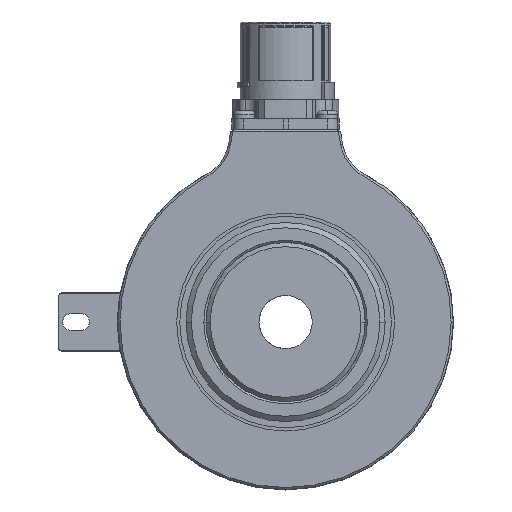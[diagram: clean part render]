
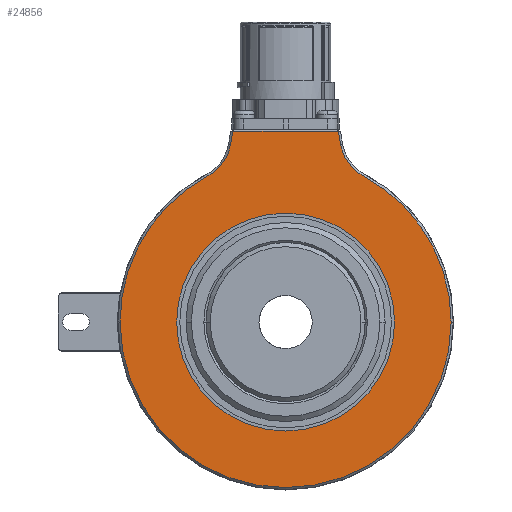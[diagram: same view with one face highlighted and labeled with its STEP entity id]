
A CAD part, left-side view. The second image highlights one B-rep face of the part: STEP entity #24856.
In plain terms, the highlighted planar face has unit normal (-1, 0, 0).
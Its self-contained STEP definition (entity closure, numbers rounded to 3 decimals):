
#92 = VERTEX_POINT ( 'NONE', #7414 ) ;
#361 = DIRECTION ( 'NONE',  ( -1., 0., 0. ) ) ;
#1126 = CIRCLE ( 'NONE', #18793, 10.5 ) ;
#1236 = ORIENTED_EDGE ( 'NONE', *, *, #30804, .T. ) ;
#1788 = CIRCLE ( 'NONE', #9314, 39.5 ) ;
#1830 = CARTESIAN_POINT ( 'NONE',  ( -26., 0., 0. ) ) ;
#1907 = PLANE ( 'NONE',  #19934 ) ;
#1931 = CIRCLE ( 'NONE', #19618, 26. ) ;
#1956 = EDGE_CURVE ( 'NONE', #15329, #11923, #1126, .T. ) ;
#2337 = VERTEX_POINT ( 'NONE', #6241 ) ;
#2783 = AXIS2_PLACEMENT_3D ( 'NONE', #19888, #26835, #12438 ) ;
#3133 = VECTOR ( 'NONE', #26745, 1000. ) ;
#3560 = EDGE_CURVE ( 'NONE', #11923, #92, #15923, .T. ) ;
#4548 = VERTEX_POINT ( 'NONE', #11146 ) ;
#4992 = EDGE_CURVE ( 'NONE', #92, #25370, #1788, .T. ) ;
#5261 = CIRCLE ( 'NONE', #5778, 26. ) ;
#5778 = AXIS2_PLACEMENT_3D ( 'NONE', #19095, #15996, #25650 ) ;
#6118 = AXIS2_PLACEMENT_3D ( 'NONE', #15010, #24813, #27504 ) ;
#6241 = CARTESIAN_POINT ( 'NONE',  ( -26., -26., 0. ) ) ;
#6453 = VERTEX_POINT ( 'NONE', #10011 ) ;
#6476 = DIRECTION ( 'NONE',  ( 0., 1., 0. ) ) ;
#6630 = CARTESIAN_POINT ( 'NONE',  ( -26., 40., 0. ) ) ;
#6663 = LINE ( 'NONE', #23603, #25077 ) ;
#6787 = CARTESIAN_POINT ( 'NONE',  ( -26., 0., 0. ) ) ;
#7298 = DIRECTION ( 'NONE',  ( 0., -1., 0. ) ) ;
#7414 = CARTESIAN_POINT ( 'NONE',  ( -26., 39.5, 0. ) ) ;
#7660 = ORIENTED_EDGE ( 'NONE', *, *, #17063, .T. ) ;
#8147 = CARTESIAN_POINT ( 'NONE',  ( -26., -39.5, 0. ) ) ;
#8992 = DIRECTION ( 'NONE',  ( 1., 0., 0. ) ) ;
#9314 = AXIS2_PLACEMENT_3D ( 'NONE', #24548, #361, #7298 ) ;
#9579 = ORIENTED_EDGE ( 'NONE', *, *, #1956, .T. ) ;
#10011 = CARTESIAN_POINT ( 'NONE',  ( -26., -13.141, 42.32 ) ) ;
#10436 = LINE ( 'NONE', #12173, #3133 ) ;
#10971 = EDGE_CURVE ( 'NONE', #6453, #11888, #6663, .T. ) ;
#11146 = CARTESIAN_POINT ( 'NONE',  ( -26., -18.551, 34.873 ) ) ;
#11503 = ORIENTED_EDGE ( 'NONE', *, *, #12806, .T. ) ;
#11888 = VERTEX_POINT ( 'NONE', #17850 ) ;
#11919 = DIRECTION ( 'NONE',  ( 0., -1., 0. ) ) ;
#11923 = VERTEX_POINT ( 'NONE', #17389 ) ;
#12159 = CIRCLE ( 'NONE', #6118, 39.5 ) ;
#12173 = CARTESIAN_POINT ( 'NONE',  ( -26., 21.188, -3.317 ) ) ;
#12177 = EDGE_LOOP ( 'NONE', ( #26329, #1236 ) ) ;
#12438 = DIRECTION ( 'NONE',  ( 0., -1., 0. ) ) ;
#12495 = ORIENTED_EDGE ( 'NONE', *, *, #4992, .T. ) ;
#12806 = EDGE_CURVE ( 'NONE', #25370, #4548, #12159, .T. ) ;
#13894 = FACE_OUTER_BOUND ( 'NONE', #14780, .T. ) ;
#14094 = CARTESIAN_POINT ( 'NONE',  ( -26., 23.482, 44.143 ) ) ;
#14780 = EDGE_LOOP ( 'NONE', ( #25677, #19709, #23329, #9579, #19209, #12495, #11503, #7660 ) ) ;
#15010 = CARTESIAN_POINT ( 'NONE',  ( -26., 0., 0. ) ) ;
#15329 = VERTEX_POINT ( 'NONE', #20414 ) ;
#15384 = VECTOR ( 'NONE', #30656, 1000. ) ;
#15923 = CIRCLE ( 'NONE', #22002, 39.5 ) ;
#15963 = CARTESIAN_POINT ( 'NONE',  ( -26., 12.58, 45.5 ) ) ;
#15996 = DIRECTION ( 'NONE',  ( 1., 0., 0. ) ) ;
#16389 = CIRCLE ( 'NONE', #2783, 10.5 ) ;
#16485 = DIRECTION ( 'NONE',  ( 1., 0., 0. ) ) ;
#17063 = EDGE_CURVE ( 'NONE', #4548, #6453, #16389, .T. ) ;
#17389 = CARTESIAN_POINT ( 'NONE',  ( -26., 18.551, 34.873 ) ) ;
#17850 = CARTESIAN_POINT ( 'NONE',  ( -26., -12.58, 45.5 ) ) ;
#18503 = DIRECTION ( 'NONE',  ( -1., 0., 0. ) ) ;
#18793 = AXIS2_PLACEMENT_3D ( 'NONE', #14094, #16485, #24078 ) ;
#19071 = DIRECTION ( 'NONE',  ( -1., 0., 0. ) ) ;
#19095 = CARTESIAN_POINT ( 'NONE',  ( -26., 0., 0. ) ) ;
#19209 = ORIENTED_EDGE ( 'NONE', *, *, #3560, .T. ) ;
#19541 = CARTESIAN_POINT ( 'NONE',  ( -26., 26., 0. ) ) ;
#19618 = AXIS2_PLACEMENT_3D ( 'NONE', #6787, #8992, #6476 ) ;
#19709 = ORIENTED_EDGE ( 'NONE', *, *, #25179, .T. ) ;
#19888 = CARTESIAN_POINT ( 'NONE',  ( -26., -23.482, 44.143 ) ) ;
#19934 = AXIS2_PLACEMENT_3D ( 'NONE', #6630, #18503, #27989 ) ;
#19975 = EDGE_CURVE ( 'NONE', #23272, #15329, #10436, .T. ) ;
#20414 = CARTESIAN_POINT ( 'NONE',  ( -26., 13.141, 42.32 ) ) ;
#20849 = CARTESIAN_POINT ( 'NONE',  ( -26., 40., 45.5 ) ) ;
#21227 = DIRECTION ( 'NONE',  ( 0., 0.174, 0.985 ) ) ;
#22002 = AXIS2_PLACEMENT_3D ( 'NONE', #1830, #19071, #11919 ) ;
#23073 = LINE ( 'NONE', #20849, #15384 ) ;
#23272 = VERTEX_POINT ( 'NONE', #15963 ) ;
#23329 = ORIENTED_EDGE ( 'NONE', *, *, #19975, .T. ) ;
#23603 = CARTESIAN_POINT ( 'NONE',  ( -26., -18.776, 10.364 ) ) ;
#24078 = DIRECTION ( 'NONE',  ( 0., -1., 0. ) ) ;
#24548 = CARTESIAN_POINT ( 'NONE',  ( -26., 0., 0. ) ) ;
#24667 = EDGE_CURVE ( 'NONE', #25662, #2337, #5261, .T. ) ;
#24813 = DIRECTION ( 'NONE',  ( -1., 0., 0. ) ) ;
#24856 = ADVANCED_FACE ( 'NONE', ( #13894, #30527 ), #1907, .T. ) ;
#25077 = VECTOR ( 'NONE', #21227, 1000. ) ;
#25179 = EDGE_CURVE ( 'NONE', #11888, #23272, #23073, .T. ) ;
#25370 = VERTEX_POINT ( 'NONE', #8147 ) ;
#25650 = DIRECTION ( 'NONE',  ( 0., 1., 0. ) ) ;
#25662 = VERTEX_POINT ( 'NONE', #19541 ) ;
#25677 = ORIENTED_EDGE ( 'NONE', *, *, #10971, .T. ) ;
#26329 = ORIENTED_EDGE ( 'NONE', *, *, #24667, .T. ) ;
#26745 = DIRECTION ( 'NONE',  ( 0., 0.174, -0.985 ) ) ;
#26835 = DIRECTION ( 'NONE',  ( 1., 0., 0. ) ) ;
#27504 = DIRECTION ( 'NONE',  ( 0., -1., 0. ) ) ;
#27989 = DIRECTION ( 'NONE',  ( 0., -1., 0. ) ) ;
#30527 = FACE_BOUND ( 'NONE', #12177, .T. ) ;
#30656 = DIRECTION ( 'NONE',  ( 0., 1., 0. ) ) ;
#30804 = EDGE_CURVE ( 'NONE', #2337, #25662, #1931, .T. ) ;
